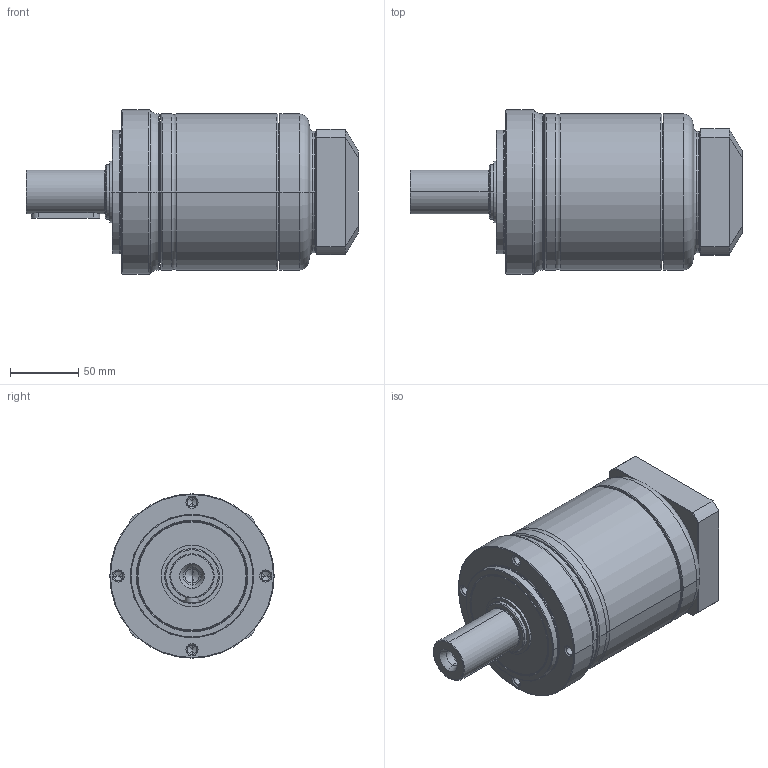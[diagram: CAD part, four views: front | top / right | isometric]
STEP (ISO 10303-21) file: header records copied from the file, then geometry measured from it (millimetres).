
FILE_DESCRIPTION((''),'2;1');
FILE_NAME('PE2-120_2ST_19-P0411400101_ASM','2017-06-03T',('d01943'),(''),'PRO/ENGINEER BY PARAMETRIC TECHNOLOGY CORPORATION, 2008410','PRO/ENGINEER BY PARAMETRIC TECHNOLOGY CORPORATION, 2008410','');
FILE_SCHEMA(('CONFIG_CONTROL_DESIGN'));
Length unit declared in the file: millimetre
Products named in the file (9): P1323410001; P0251400001; P1324400001; P0350401001; P0941400001; P0503400008; P0411400101; P1702500001; PE2-120_2ST_19-P0411400101_ASM
Assembly tree (8 placements, depth 2):
  PE2-120_2ST_19-P0411400101_ASM
    P1323410001
    P0251400001
    P1324400001
    P0350401001
    P0941400001
    P0503400008
    P0411400101
    P1702500001
Bounding box: 242.5 x 120 x 120 mm (x, y, z)
Volume: 1247928.8 mm3; surface area: 224554.9 mm2
Topology: 8 solids, 8 shells, 480 faces, 1049 edges, 600 vertices
Faces by surface type: cone 142, cylinder 142, torus 102, plane 78, bspline 16
Entity records: 17784 total; most frequent: CARTESIAN_POINT 7033, DIRECTION 2457, ORIENTED_EDGE 2034, AXIS2_PLACEMENT_3D 1056, EDGE_CURVE 1017, VERTEX_POINT 600, CIRCLE 575, EDGE_LOOP 543
